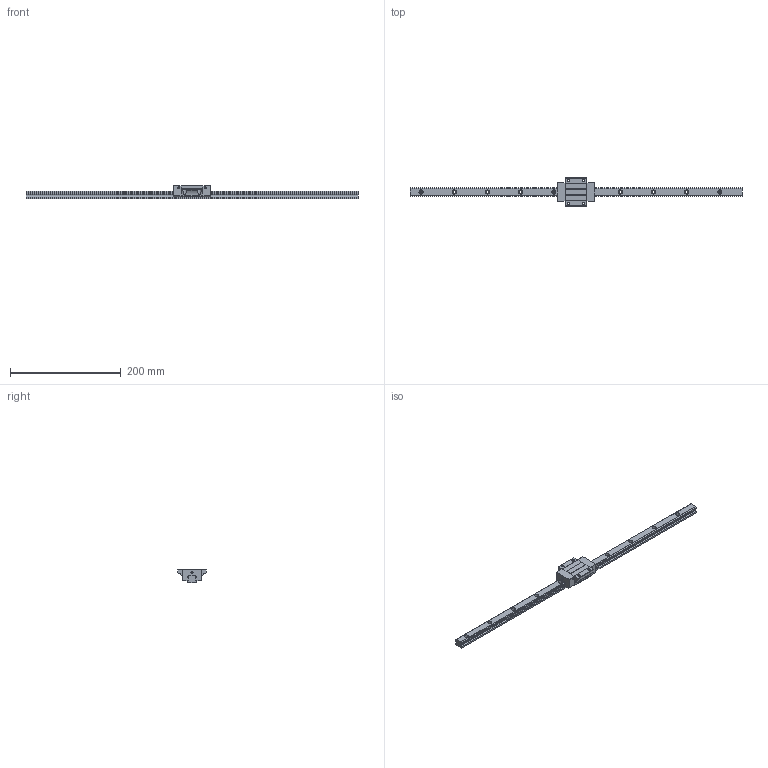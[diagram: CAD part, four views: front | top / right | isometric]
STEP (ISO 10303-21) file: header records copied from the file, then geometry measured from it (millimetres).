
FILE_DESCRIPTION (( 'STEP AP203' ), '1' );
FILE_NAME ('123.STEP', '2024-05-21T03:14:23', ( '' ), ( '' ), 'SwSTEP 2.0', 'SolidWorks 2022', '' );
FILE_SCHEMA (( 'CONFIG_CONTROL_DESIGN' ));
Length unit declared in the file: millimetre
Products named in the file (1): 123
Bounding box: 600 x 52 x 24 mm (x, y, z)
Volume: 143363.8 mm3; surface area: 49154.2 mm2
Topology: 2 solids, 2 shells, 238 faces, 638 edges, 416 vertices
Faces by surface type: cylinder 130, plane 104, sphere 4
Entity records: 7780 total; most frequent: CARTESIAN_POINT 1566, DIRECTION 1306, ORIENTED_EDGE 1268, EDGE_CURVE 634, AXIS2_PLACEMENT_3D 467, VERTEX_POINT 416, VECTOR 372, LINE 372
